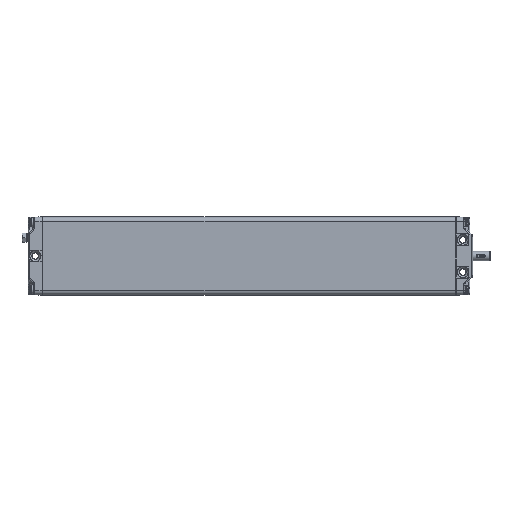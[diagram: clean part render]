
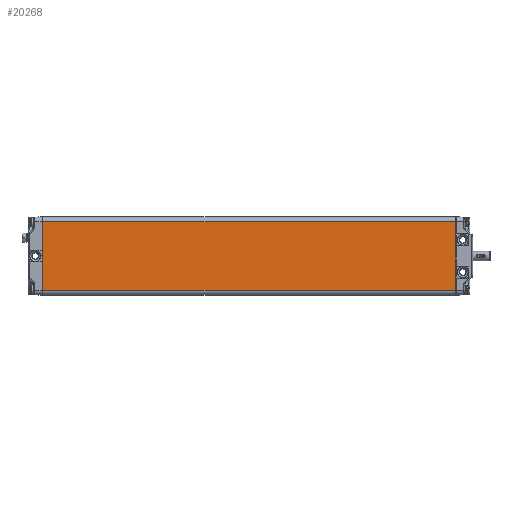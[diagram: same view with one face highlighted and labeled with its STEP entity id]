
A CAD part, top view. The second image highlights one B-rep face of the part: STEP entity #20268.
In plain terms, the highlighted planar face has unit normal (0, 0, 1).
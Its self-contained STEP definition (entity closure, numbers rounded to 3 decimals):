
#2488=LINE('',#48858,#3323);
#2489=LINE('',#48861,#3324);
#2490=LINE('',#48863,#3325);
#2491=LINE('',#48865,#3326);
#3323=VECTOR('',#25596,1000.);
#3324=VECTOR('',#25597,1000.);
#3325=VECTOR('',#25598,1000.);
#3326=VECTOR('',#25599,1000.);
#7464=ORIENTED_EDGE('',*,*,#11484,.T.);
#7465=ORIENTED_EDGE('',*,*,#11485,.T.);
#7466=ORIENTED_EDGE('',*,*,#11486,.T.);
#7467=ORIENTED_EDGE('',*,*,#11487,.T.);
#11484=EDGE_CURVE('',#13686,#13687,#2488,.T.);
#11485=EDGE_CURVE('',#13687,#13688,#2489,.F.);
#11486=EDGE_CURVE('',#13688,#13689,#2490,.F.);
#11487=EDGE_CURVE('',#13689,#13686,#2491,.T.);
#13686=VERTEX_POINT('',#48859);
#13687=VERTEX_POINT('',#48860);
#13688=VERTEX_POINT('',#48862);
#13689=VERTEX_POINT('',#48864);
#16058=EDGE_LOOP('',(#7464,#7465,#7466,#7467));
#17517=FACE_BOUND('',#16058,.T.);
#18320=PLANE('',#21960);
#20268=ADVANCED_FACE('',(#17517),#18320,.T.);
#21960=AXIS2_PLACEMENT_3D('',#48857,#25594,#25595);
#25594=DIRECTION('',(0.,0.,1.));
#25595=DIRECTION('',(1.,0.,0.));
#25596=DIRECTION('',(0.,-1.,0.));
#25597=DIRECTION('',(-1.,0.,0.));
#25598=DIRECTION('',(0.,-1.,0.));
#25599=DIRECTION('',(-1.,0.,0.));
#48857=CARTESIAN_POINT('',(42.5,450.5,17.5));
#48858=CARTESIAN_POINT('',(-37.5,450.5,17.5));
#48859=CARTESIAN_POINT('',(-37.5,450.,17.5));
#48860=CARTESIAN_POINT('',(-37.5,0.5,17.5));
#48861=CARTESIAN_POINT('',(37.5,0.5,17.5));
#48862=CARTESIAN_POINT('',(37.5,0.5,17.5));
#48863=CARTESIAN_POINT('',(37.5,450.5,17.5));
#48864=CARTESIAN_POINT('',(37.5,450.,17.5));
#48865=CARTESIAN_POINT('',(42.5,450.,17.5));
